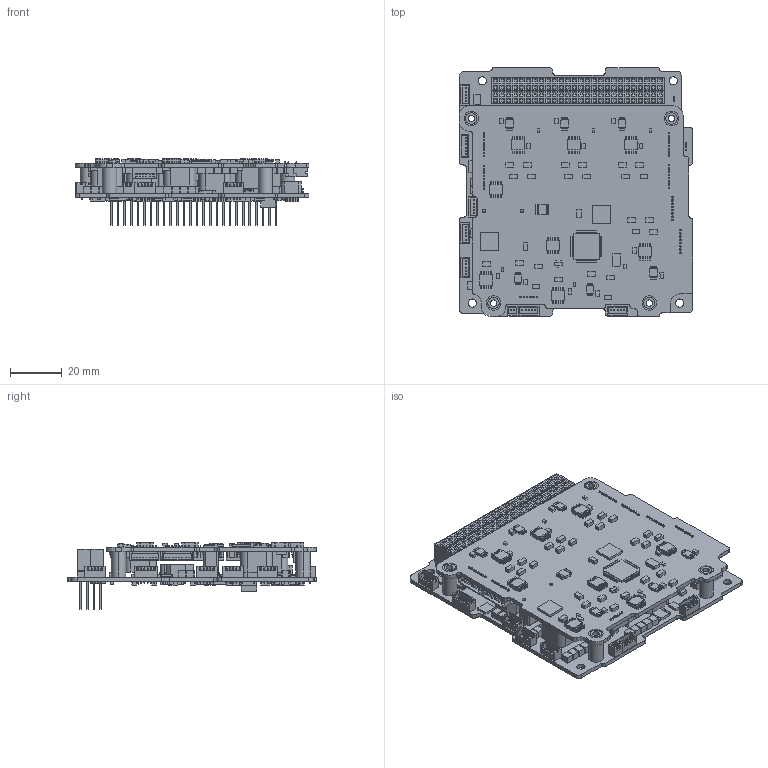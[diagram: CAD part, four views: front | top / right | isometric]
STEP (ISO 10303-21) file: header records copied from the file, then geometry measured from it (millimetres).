
FILE_DESCRIPTION (( 'STEP AP214' ), '1' );
FILE_NAME ('3D-01-02453RevC_defeature.STEP', '2022-10-19T09:59:30', ( '' ), ( '' ), 'SwSTEP 2.0', 'SolidWorks 2021', '' );
FILE_SCHEMA (( 'AUTOMOTIVE_DESIGN' ));
Length unit declared in the file: millimetre
Products named in the file (1): 3D-01-02453RevC_defeature
Bounding box: 90.17 x 95.89 x 25.8 mm (x, y, z)
Volume: 50346 mm3; surface area: 71023.7 mm2
Topology: 458 solids, 458 shells, 11844 faces, 31462 edges, 20590 vertices
Faces by surface type: plane 10738, cylinder 914, bspline 138, cone 48, torus 4, sphere 2
Entity records: 368100 total; most frequent: CARTESIAN_POINT 71531, ORIENTED_EDGE 62912, DIRECTION 54559, EDGE_CURVE 31456, VECTOR 27375, LINE 27375, VERTEX_POINT 20586, AXIS2_PLACEMENT_3D 13592
